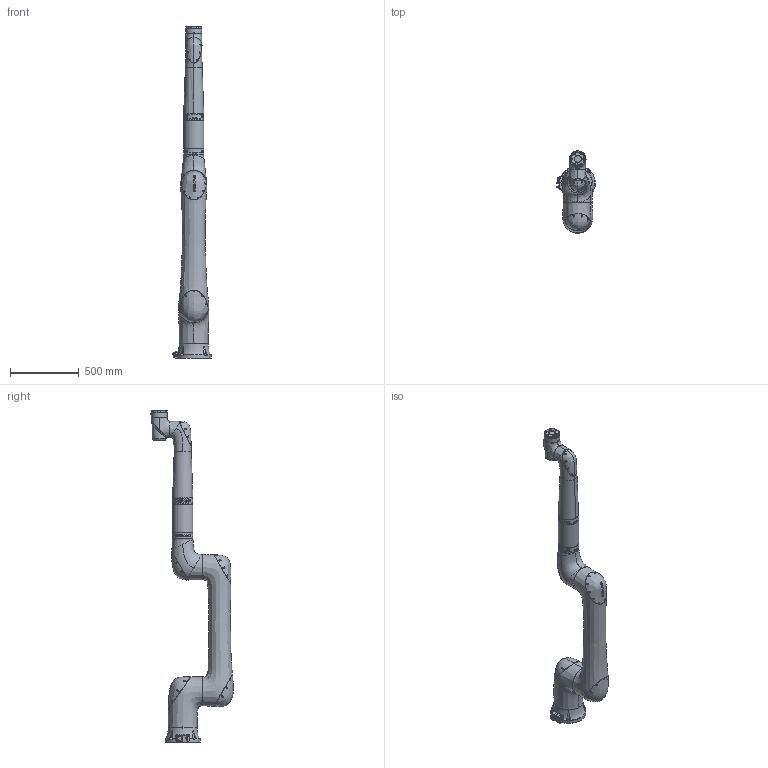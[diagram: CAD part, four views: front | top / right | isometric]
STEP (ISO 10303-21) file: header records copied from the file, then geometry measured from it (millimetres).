
FILE_DESCRIPTION(/* description */ (''),/* implementation_level */ '2;1');
FILE_NAME(/* name */ '【】XMC17-5-R1900-C 简化模型（20231219）.stp',/* time_stamp */ '2023-12-19T17:20:06+08:00',/* author */ (''),/* organization */ (''),/* preprocessor_version */ 'ST-DEVELOPER v16',/* originating_system */ 'SIEMENS PLM Software NX 10.0',/* authorisation */ '');
FILE_SCHEMA (('AUTOMOTIVE_DESIGN { 1 0 10303 214 3 1 1 1 }'));
Products named in the file (7): XMC17-5-C-shuchu-A; XMC17-5-C-shouwan-A; XMC17-5-C-base-A; XMC17-5-C-xiaobi-A; XMC17-5-C-dabi-A; XMC17-5-C-yao-A; 【】XMC17-5-C-R1900 \X2\7B8053166A21578BFF08
\X0\20231031）
Assembly tree (6 placements, depth 2):
  【】XMC17-5-C-R1900 \X2\7B8053166A21578BFF08
\X0\20231031）
    XMC17-5-C-yao-A
    XMC17-5-C-dabi-A
    XMC17-5-C-xiaobi-A
    XMC17-5-C-base-A
    XMC17-5-C-shouwan-A
    XMC17-5-C-shuchu-A
Bounding box: 279.5 x 598.26 x 2407.5 mm (x, y, z)
Volume: 69271846.6 mm3; surface area: 2513771.8 mm2
Topology: 16 solids, 56 shells, 4351 faces, 10439 edges, 6374 vertices
Faces by surface type: plane 1993, cone 1148, cylinder 565, bspline 408, torus 231, revolution 4, extrusion 2
Full cylindrical faces by diameter (mm): 0.8 x8, 2.5 x4, 2.874 x8, 3.3 x1, 3.4 x16, 3.8 x8, 4.2 x1, 5 x12, 5.5 x60, 6 x2, 6.7 x2, 6.8 x6, 8 x2, 8.3 x1, 8.5 x12, 9.321 x1, 10 x12, 13.5 x4, 13.8 x1, 50 x1, 90 x4, 114 x2, 140 x2, 142 x4, 148 x1, 160 x4
Entity records: 246692 total; most frequent: CARTESIAN_POINT 153937, ORIENTED_EDGE 19212, DIRECTION 17826, EDGE_CURVE 9606, AXIS2_PLACEMENT_3D 6979, VERTEX_POINT 6196, EDGE_LOOP 5179, ADVANCED_FACE 4351
